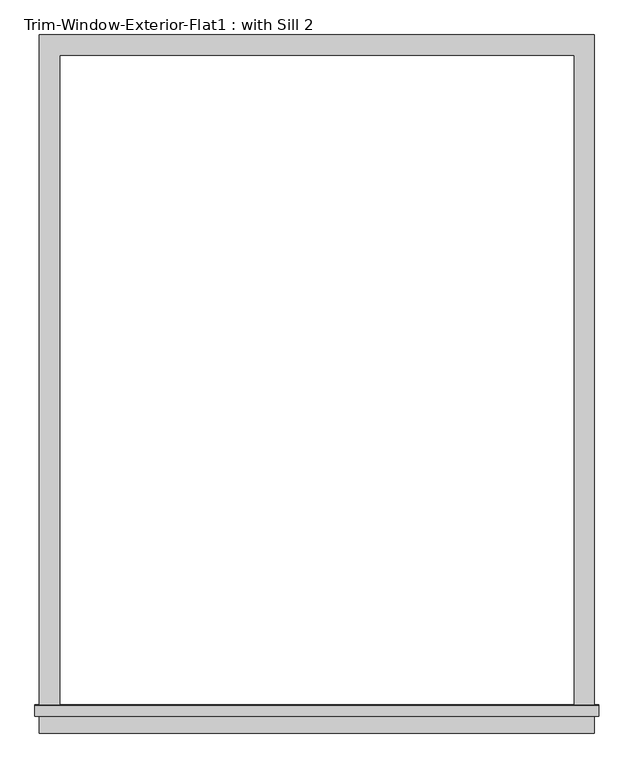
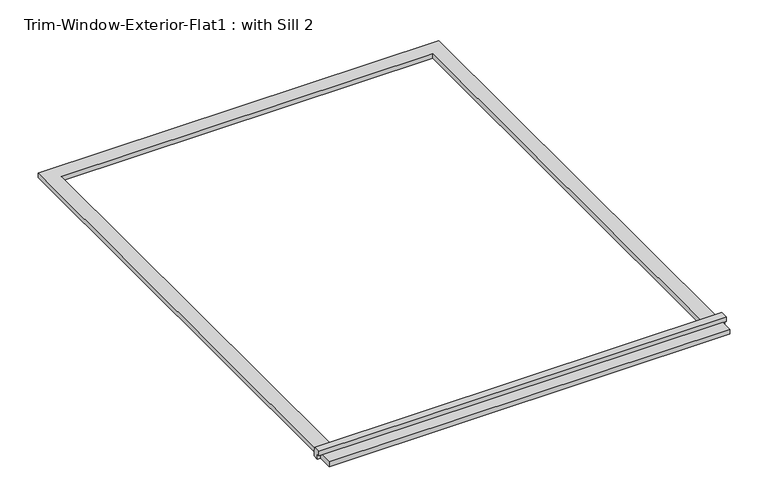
"""IFC4 building model written with IfcOpenShell, lengths in millimetres: proxy geometry, Trim-Window-Exterior-Flat1 : with Sill 2."""

from ifc_helpers import new_model, si_unit, frame, origin, origin_with_axes, place, context, project, spatial, polyline, outline, extrude, source, transform, mapped, element, save


def trim_window_exterior_flat1_with_sill_2_e04b3088(model_context):
    return source(origin(), model_context, "Body", "SweptSolid", [
        extrude(outline(polyline([(781.05, -1850.9823709), (781.05, -1908.1323709), (-781.05, -1908.1323709), (-781.05, -1850.9823709), (781.05, -1850.9823709)])), origin_with_axes(), (0.0, 0.0, 1.0), 19.05),
        extrude(outline(polyline([(-1860.55, 38.1), (-1831.2580645, 38.1), (-1828.8, 19.05), (-1828.8, 0.0), (-1850.9823709, 0.0), (-1850.9823709, 19.05), (-1860.55, 19.05), (-1860.55, 38.1)])), frame((-793.75, 0.0, 0.0), z_axis=(1.0, 0.0, 0.0), x_axis=(0.0, 1.0, 0.0)), (0.0, 0.0, 1.0), 1587.5),
        extrude(outline(polyline([(-781.05, 57.15), (781.05, 57.15), (781.05, -1828.8), (723.9, -1828.8), (723.9, 0.0), (-723.9, 0.0), (-723.9, -1828.8), (-781.05, -1828.8), (-781.05, 57.15)])), origin_with_axes(), (0.0, 0.0, 1.0), 19.05),
    ])


if __name__ == "__main__":
    model = new_model("IFC4")
    model_context = context("Model", 3, world=origin())
    ifc_project = project(units=[si_unit("LENGTHUNIT", "METRE", prefix="MILLI")], contexts=[model_context])
    site = spatial("IfcSite", under=ifc_project)
    building = spatial("IfcBuilding", under=site)
    placement = place(None, origin())
    trim_window_exterior_flat1_with_sill_2_shape = trim_window_exterior_flat1_with_sill_2_e04b3088(model_context)
    element("IfcBuildingElementProxy", 1, Name="Trim-Window-Exterior-Flat1 : with Sill 2", ObjectType="Trim-Window-Exterior-Flat1 : with Sill 2", at=placement, inside=building, context=model_context, shape_type="MappedRepresentation", body=[
        mapped(trim_window_exterior_flat1_with_sill_2_shape, transform((0.0, 0.0, 0.0), x_axis=(1.0, 0.0, 0.0), y_axis=(0.0, 1.0, 0.0), z_axis=(0.0, 0.0, 1.0))),
    ])
    save(model, "model.ifc")
